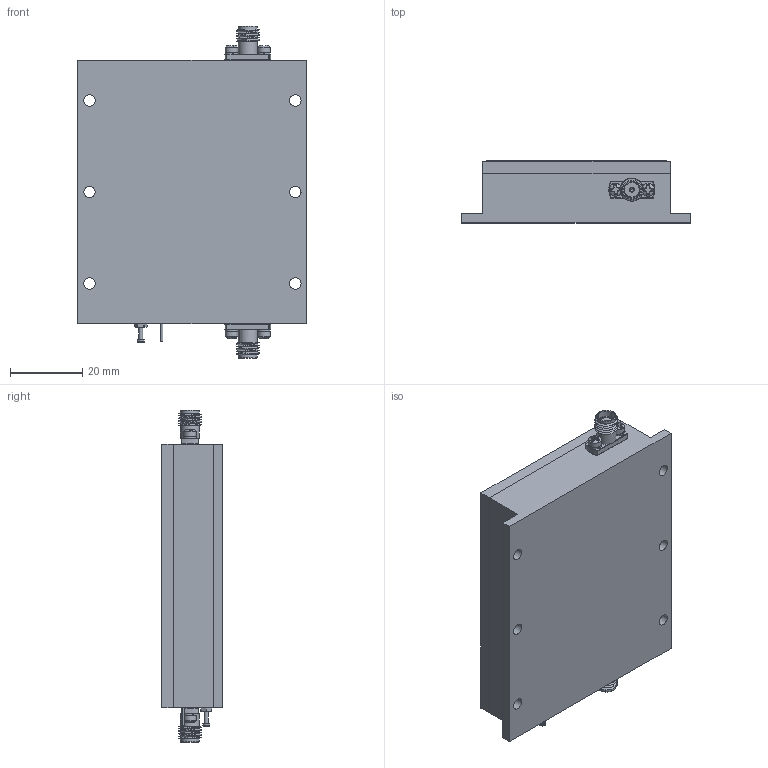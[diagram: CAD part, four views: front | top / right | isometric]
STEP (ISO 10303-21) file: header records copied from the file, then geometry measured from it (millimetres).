
FILE_DESCRIPTION (( 'STEP AP214' ), '1' );
FILE_NAME ('PA-218-45-5-10W-22V-SFF.STEP', '2026-05-22T20:00:11', ( '' ), ( '' ), 'SwSTEP 2.0', 'SolidWorks 2025', '' );
FILE_SCHEMA (( 'AUTOMOTIVE_DESIGN' ));
Length unit declared in the file: inch
Products named in the file (1): PA-218-45-5-10W-22V-SFF
Bounding box: 63.5 x 17.14 x 92.2 mm (x, y, z)
Volume: 67569.8 mm3; surface area: 32072.6 mm2
Topology: 45 solids, 45 shells, 984 faces, 3081 edges, 2368 vertices
Faces by surface type: plane 600, cylinder 159, cone 96, sphere 57, torus 56, bspline 16
Full cylindrical faces by diameter (mm): 0.305 x4, 0.559 x2, 0.635 x2, 1.016 x3, 1.067 x1, 1.27 x2, 1.93 x1, 2.184 x18, 2.438 x26, 2.591 x4, 3.175 x6, 3.302 x2, 3.556 x17, 3.962 x13, 4.191 x4, 4.597 x2, 5.283 x4
Entity records: 52230 total; most frequent: CARTESIAN_POINT 12479, ORIENTED_EDGE 5694, DIRECTION 5263, EDGE_CURVE 2847, VERTEX_POINT 2337, AXIS2_PLACEMENT_3D 1938, EDGE_LOOP 1414, VECTOR 1387
